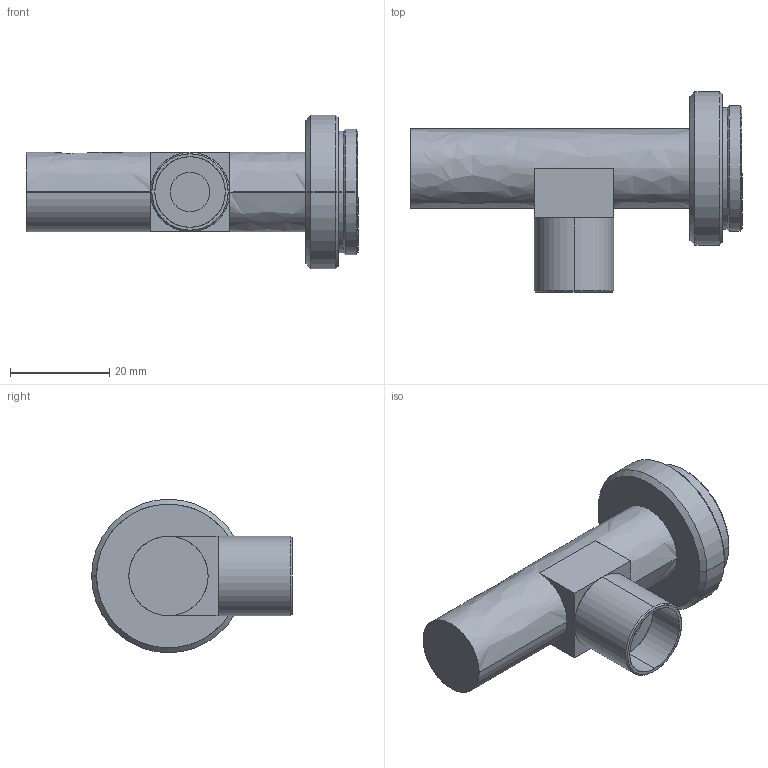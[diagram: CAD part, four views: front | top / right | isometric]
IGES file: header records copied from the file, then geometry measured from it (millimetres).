
Start section: SolidWorks IGES file using analytic representation for surfaces
Bounding box: 67 x 40.5 x 31 mm (x, y, z)
Surface area: 6798.1 mm2 (no closed solid volume)
Topology: 0 solids, 0 shells, 39 faces, 612 edges, 612 vertices
Faces by surface type: revolution 24, bspline 15
